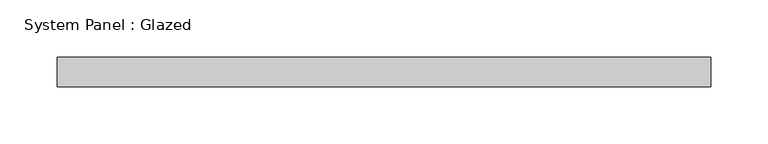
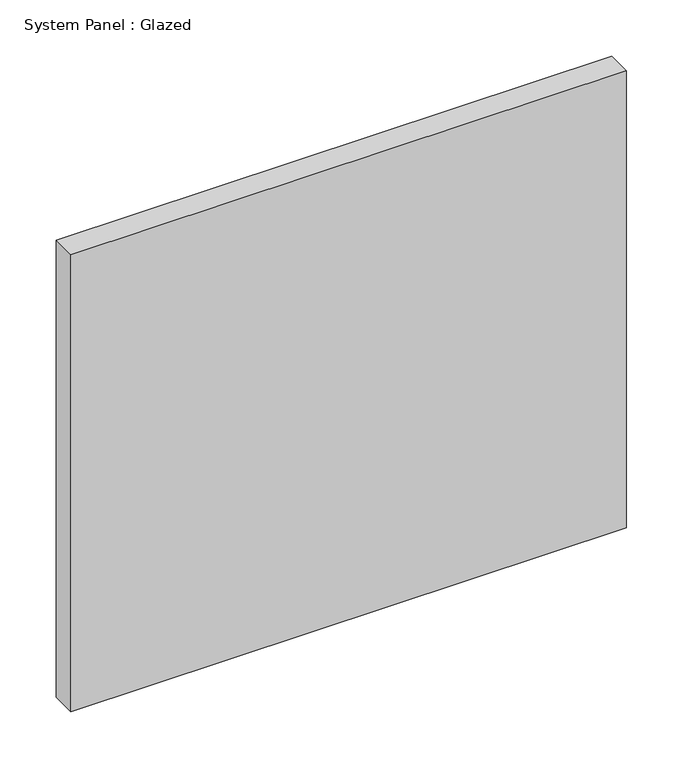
"""IFC4 building model written with IfcOpenShell, lengths in millimetres: plate geometry, System Panel : Glazed."""

import ifcopenshell
import ifcopenshell.guid

model = None  # the IFC model being written
_history = None  # IfcOwnerHistory: only IFC2X3 demands one
_inside = {}  # id of a spatial element -> (the spatial element, [elements in it])
_under = {}  # id of a project, library or spatial element -> (it, [spatial elements below it])
_declared = {}  # id of a project -> (the project, [libraries it declares])
_typed = {}  # id of a type object -> (the type object, [elements of that type])
_made_of = {}  # id of a material, layer set ... -> (it, [elements and type objects made of it])


def new_model(schema):
    """Start an empty IFC model of exactly this schema.

    Asked for "IFC4X3", IfcOpenShell would pick the latest addendum, in which some entities
    have other attributes; the version numbers below select the first issue.
    IFC2X3 requires an IfcOwnerHistory on every rooted entity: one is made here for all.
    """
    global model, _history
    if schema == "IFC4X3":
        model = ifcopenshell.file(schema_version=(4, 3, 0, 0))
    else:
        model = ifcopenshell.file(schema=schema)
    _inside.clear()
    _under.clear()
    _declared.clear()
    _typed.clear()
    _made_of.clear()
    _history = None
    if model.schema == "IFC2X3":
        org = make("IfcOrganization", Name="unknown")
        user = make(
            "IfcPersonAndOrganization",
            ThePerson=make("IfcPerson", FamilyName="unknown"),
            TheOrganization=org,
        )
        app = make(
            "IfcApplication",
            ApplicationDeveloper=org,
            Version="unknown",
            ApplicationFullName="unknown",
            ApplicationIdentifier="unknown",
        )
        _history = make(
            "IfcOwnerHistory",
            OwningUser=user,
            OwningApplication=app,
            ChangeAction="ADDED",
            CreationDate=0,
        )
    return model


def make(cls, **values):
    """One entity of the class cls with the attributes given. An attribute that is None is left unset."""
    return model.create_entity(
        cls, **{name: value for name, value in values.items() if value is not None}
    )


def rooted(cls, **values):
    """An entity with a GlobalId (a new one), such as an element, a storey or a relation."""
    return make(cls, GlobalId=ifcopenshell.guid.new(), OwnerHistory=_history, **values)


def si_unit(unit_type, name, prefix=None):
    """IfcSIUnit, for example si_unit("LENGTHUNIT", "METRE", prefix="MILLI")."""
    return make("IfcSIUnit", UnitType=unit_type, Prefix=prefix, Name=name)


def assignment(units):
    """IfcUnitAssignment: the units of a project."""
    return None if units is None else make("IfcUnitAssignment", Units=units)


def point(xyz):
    """IfcCartesianPoint."""
    return None if xyz is None else make("IfcCartesianPoint", Coordinates=xyz)


def direction(xyz):
    """IfcDirection."""
    return None if xyz is None else make("IfcDirection", DirectionRatios=xyz)


def frame(location, z_axis=None, x_axis=None):
    """IfcAxis2Placement3D, a coordinate frame: its origin and axes. An axis left out is left unset."""
    return make(
        "IfcAxis2Placement3D",
        Location=point(location),
        Axis=direction(z_axis),
        RefDirection=direction(x_axis),
    )


def origin():
    """The frame at (0, 0, 0) with its axes left unset."""
    return frame((0.0, 0.0, 0.0))


def origin_with_axes():
    """The frame at (0, 0, 0) with the z axis (0, 0, 1) and the x axis (1, 0, 0) written out."""
    return frame((0.0, 0.0, 0.0), z_axis=(0.0, 0.0, 1.0), x_axis=(1.0, 0.0, 0.0))


def place(relative_to, where):
    """IfcLocalPlacement: puts the frame where relative to a parent placement (None: the world)."""
    return make(
        "IfcLocalPlacement", PlacementRelTo=relative_to, RelativePlacement=where
    )


def context(
    kind, dimensions, precision=None, world=None, true_north=None, identifier=None
):
    """IfcGeometricRepresentationContext, for example the 3D "Model" context."""
    return make(
        "IfcGeometricRepresentationContext",
        ContextIdentifier=identifier,
        ContextType=kind,
        CoordinateSpaceDimension=dimensions,
        Precision=precision,
        WorldCoordinateSystem=world,
        TrueNorth=true_north,
    )


def project(units=None, contexts=None):
    """IfcProject with its units and contexts."""
    return rooted(
        "IfcProject",
        Name="project",
        RepresentationContexts=contexts,
        UnitsInContext=assignment(units),
    )


def spatial(cls, under=None, at=None, **own):
    """A site, building, storey or space (cls), placed at a placement, below another one or the project."""
    s = rooted(cls, ObjectPlacement=at, **own)
    if under is not None:
        _under.setdefault(under.id(), (under, []))[1].append(s)
    return s


def polyline(points):
    """IfcPolyline through the points."""
    return make("IfcPolyline", Points=[point(p) for p in points])


def outline(outer, holes=None, kind="AREA"):
    """IfcArbitraryClosedProfileDef: a profile drawn as a closed curve; with holes, ...WithVoids."""
    if holes is None:
        return make("IfcArbitraryClosedProfileDef", ProfileType=kind, OuterCurve=outer)
    return make(
        "IfcArbitraryProfileDefWithVoids",
        ProfileType=kind,
        OuterCurve=outer,
        InnerCurves=holes,
    )


def extrude(swept, where, along, depth):
    """IfcExtrudedAreaSolid: the profile swept, set in the frame where, extruded along a direction by depth."""
    return make(
        "IfcExtrudedAreaSolid",
        SweptArea=swept,
        Position=where,
        ExtrudedDirection=direction(along),
        Depth=depth,
    )


def shape(context_of_items, identifier, shape_type, items):
    """IfcShapeRepresentation: the items that make up one representation, for example the "Body"."""
    return make(
        "IfcShapeRepresentation",
        ContextOfItems=context_of_items,
        RepresentationIdentifier=identifier,
        RepresentationType=shape_type,
        Items=items,
    )


def source(mapping_origin, context_of_items, identifier, shape_type, items):
    """IfcRepresentationMap: a shape defined once, which mapped items show again and again."""
    return make(
        "IfcRepresentationMap",
        MappingOrigin=mapping_origin,
        MappedRepresentation=shape(context_of_items, identifier, shape_type, items),
    )


def transform(
    local_origin,
    x_axis=None,
    y_axis=None,
    z_axis=None,
    scale=None,
    scale2=None,
    scale3=None,
    uniform=True,
):
    """IfcCartesianTransformationOperator3D, or its non-uniform kind. x_axis, y_axis, z_axis: its Axis1, 2, 3."""
    if uniform:
        return make(
            "IfcCartesianTransformationOperator3D",
            Axis1=direction(x_axis),
            Axis2=direction(y_axis),
            LocalOrigin=point(local_origin),
            Scale=scale,
            Axis3=direction(z_axis),
        )
    return make(
        "IfcCartesianTransformationOperator3DnonUniform",
        Axis1=direction(x_axis),
        Axis2=direction(y_axis),
        LocalOrigin=point(local_origin),
        Scale=scale,
        Axis3=direction(z_axis),
        Scale2=scale2,
        Scale3=scale3,
    )


def mapped(mapping_source, mapping_target):
    """IfcMappedItem: shows the shape of a source again, moved by a transform."""
    return make(
        "IfcMappedItem", MappingSource=mapping_source, MappingTarget=mapping_target
    )


def made_of(thing, what):
    """Note that an element or type object is made of a material, layer set ...; save() writes the relation."""
    if what is not None:
        _made_of.setdefault(what.id(), (what, []))[1].append(thing)
    return thing


def element(
    cls,
    number,
    at=None,
    inside=None,
    cuts=None,
    type_object=None,
    material=None,
    context=None,
    identifier="Body",
    shape_type=None,
    held_by="IfcProductDefinitionShape",
    body=None,
    shapes=None,
    **own,
):
    """One element of the class cls, such as IfcWall. Its Tag is "e" and its number.

    at: its placement. inside: the storey or other place that contains it. cuts: it is an
    opening in that element (IfcRelVoidsElement). A single representation is given by context,
    identifier, shape_type and body (its items); several are given by shapes. held_by: the class
    of the entity that holds the representations. save() writes the other relations.
    """
    e = rooted(cls, Tag="e%d" % number, ObjectPlacement=at, **own)
    if body is not None:
        shapes = [shape(context, identifier, shape_type, body)]
    if shapes is not None:
        e.Representation = make(held_by, Representations=shapes)
    if inside is not None:
        _inside.setdefault(inside.id(), (inside, []))[1].append(e)
    if cuts is not None:
        rooted(
            "IfcRelVoidsElement", RelatingBuildingElement=cuts, RelatedOpeningElement=e
        )
    if type_object is not None:
        _typed.setdefault(type_object.id(), (type_object, []))[1].append(e)
    return made_of(e, material)


def aggregate(whole, parts):
    """IfcRelAggregates: a whole, such as a stair, and the parts it consists of."""
    return rooted("IfcRelAggregates", RelatingObject=whole, RelatedObjects=parts)


def save(model, path):
    """Write the relations noted so far, then the file.

    IfcRelAggregates (storeys below a building ...), IfcRelContainedInSpatialStructure (elements
    in a storey), IfcRelDefinesByType, IfcRelAssociatesMaterial and IfcRelDeclares: one each for
    every whole, place, type object, material and project.
    """
    for whole, parts in _under.values():
        aggregate(whole, parts)
    for where, things in _inside.values():
        rooted(
            "IfcRelContainedInSpatialStructure",
            RelatedElements=things,
            RelatingStructure=where,
        )
    for kind, things in _typed.values():
        rooted("IfcRelDefinesByType", RelatedObjects=things, RelatingType=kind)
    for what, things in _made_of.values():
        rooted("IfcRelAssociatesMaterial", RelatedObjects=things, RelatingMaterial=what)
    for by, libraries in _declared.values():
        rooted("IfcRelDeclares", RelatingContext=by, RelatedDefinitions=libraries)
    model.write(path)


def system_panel_glazed_426cf27e(model_context):
    return source(origin(), model_context, "Body", "SweptSolid", [
        extrude(outline(polyline([(284.6978478, -12.7), (-284.6978478, -12.7), (-284.6978478, 12.7), (284.6978478, 12.7), (284.6978478, -12.7)])), origin_with_axes(), (0.0, 0.0, 1.0), 495.3),
    ])


if __name__ == "__main__":
    model = new_model("IFC4")
    model_context = context("Model", 3, world=origin())
    ifc_project = project(units=[si_unit("LENGTHUNIT", "METRE", prefix="MILLI")], contexts=[model_context])
    site = spatial("IfcSite", under=ifc_project)
    building = spatial("IfcBuilding", under=site)
    placement = place(None, origin())
    system_panel_glazed_shape = system_panel_glazed_426cf27e(model_context)
    element("IfcPlate", 1, ObjectType="System Panel : Glazed", at=placement, inside=building, context=model_context, shape_type="MappedRepresentation", body=[
        mapped(system_panel_glazed_shape, transform((0.0, 0.0, 0.0), x_axis=(1.0, 0.0, 0.0), y_axis=(0.0, 1.0, 0.0), z_axis=(0.0, 0.0, 1.0))),
    ])
    save(model, "model.ifc")
